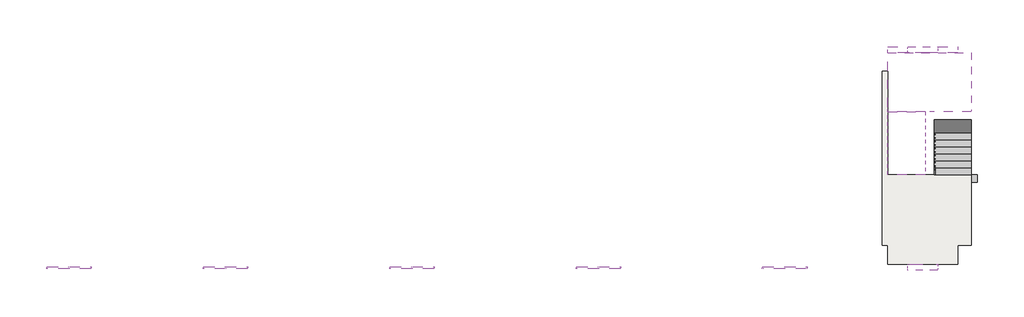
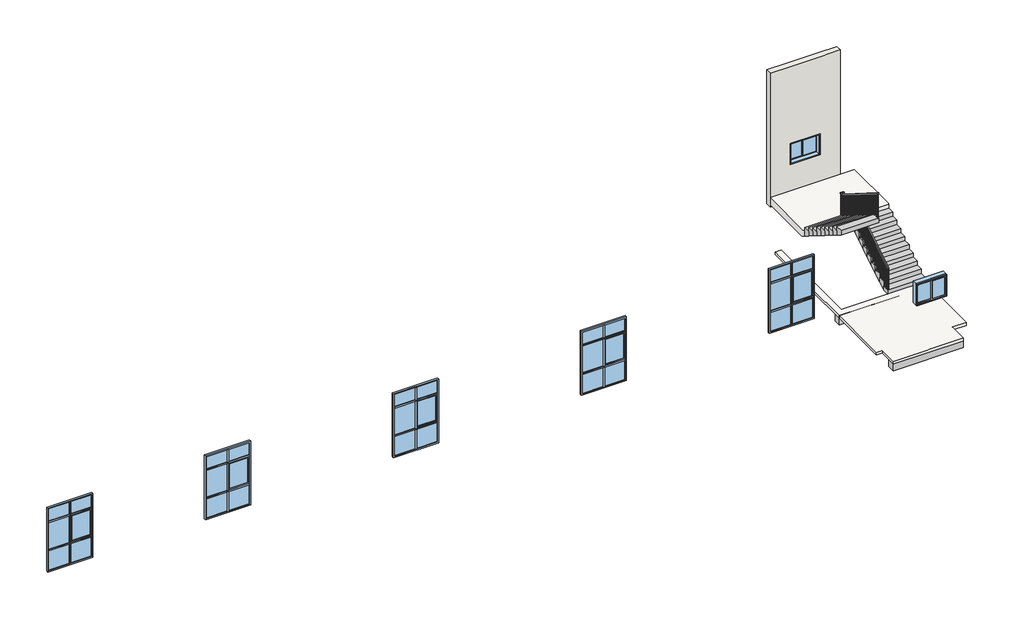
# One storey: 7 windows, 2 beams, 2 slabs, 2 stair flights, 1 railing, 1 wall.
"""IFC4 building model written with IfcOpenShell, lengths in millimetres."""

from ifc_helpers import new_model, si_unit, frame, origin, place, context, project, spatial, polyline, outline, extrude, faceted_brep, transform, mapped, element, save
from components import beam_300x400_5cb47341, c1209_ef09aeb5, c1827_4e4fbd46

model = new_model("IFC4")

# Units and contexts
model_context = context("Model", 3, world=origin())
ifc_project = project(units=[si_unit("LENGTHUNIT", "METRE", prefix="MILLI")], contexts=[model_context])

# Site, building, storey
site = spatial("IfcSite", under=ifc_project)
building = spatial("IfcBuilding", under=site)
storey = spatial("IfcBuildingStorey", under=building, Name="二层", Elevation=3500.0)

# Beams
placement = place(None, origin())
element("IfcBeam", 1, ObjectType="混凝土 - 矩形梁 : 300X400", at=placement, inside=storey, context=model_context, shape_type="SweptSolid", body=[
    extrude(outline(polyline([(26422.1385293, -289.8143546), (26422.1385293, 10.1856454), (29222.1385293, 10.1856454), (29222.1385293, -289.8143546), (26422.1385293, -289.8143546)])), frame((0.0, 0.0, 3100.0), z_axis=(0.0, 0.0, 1.0), x_axis=(1.0, 0.0, 0.0)), (0.0, 0.0, 1.0), 400.0),
])
beam_300x400_shape = beam_300x400_5cb47341(model_context)
element("IfcBeam", 2, ObjectType="混凝土 - 矩形梁 : 300X400", at=placement, inside=storey, context=model_context, shape_type="MappedRepresentation", body=[
    mapped(beam_300x400_shape, transform((28102.1385293, 3170.1856454, 3300.0), x_axis=(1.0, 0.0, 0.0), y_axis=(0.0, 1.0, 0.0), z_axis=(0.0, 0.0, 1.0))),
])

# Railing
element("IfcRailing", 3, ObjectType="900mm", at=placement, inside=storey, context=model_context, shape_type="SolidModel", body=[
    faceted_brep([(28282.5385293, 3320.3432269, 4575.0), (28282.5385293, 3320.3432269, 4516.0376179), (28332.5385293, 3320.3432269, 4516.0376179), (28332.5385293, 3320.3432269, 4575.0), (28282.5385293, 5765.7432269, 6103.375), (28282.5385293, 5815.7432269, 6075.6626179), (28332.5385293, 5815.7432269, 6075.6626179), (28332.5385293, 5765.7432269, 6103.375), (28282.5385293, 5765.7432269, 6150.0), (28282.5385293, 5815.7432269, 6100.0), (28332.5385293, 5815.7432269, 6100.0), (28332.5385293, 5765.7432269, 6150.0), (28282.5385293, 5840.7432269, 6150.0), (28282.5385293, 5840.7432269, 6100.0), (28332.5385293, 5890.7432269, 6100.0), (28332.5385293, 5890.7432269, 6150.0), (28207.5385293, 5840.7432269, 6150.0), (28207.5385293, 5840.7432269, 6100.0), (28207.5385293, 5890.7432269, 6100.0), (28207.5385293, 5890.7432269, 6150.0), (27996.7385293, 5840.7432269, 6150.0), (27946.7385293, 5840.7432269, 6100.0), (27946.7385293, 5890.7432269, 6100.0), (27996.7385293, 5890.7432269, 6150.0), (27996.7385293, 5840.7432269, 6371.625), (27946.7385293, 5840.7432269, 6321.625), (27946.7385293, 5890.7432269, 6321.625), (27996.7385293, 5890.7432269, 6371.625), (27921.7385293, 5840.7432269, 6371.625), (27921.7385293, 5840.7432269, 6321.625), (27871.7385293, 5890.7432269, 6321.625), (27871.7385293, 5890.7432269, 6371.625), (27921.7385293, 5765.7432269, 6371.625), (27921.7385293, 5751.4034156, 6321.625), (27871.7385293, 5751.4034156, 6321.625), (27871.7385293, 5765.7432269, 6371.625), (27921.7385293, 3320.3432269, 7900.0), (27871.7385293, 3320.3432269, 7900.0), (27871.7385293, 3320.3432269, 7841.0376179), (27921.7385293, 3320.3432269, 7841.0376179)], [[[0, 1, 2, 3]], [[1, 0, 4, 5]], [[2, 1, 5, 6]], [[3, 2, 6, 7]], [[0, 3, 7, 4]], [[5, 4, 8, 9]], [[6, 5, 9, 10]], [[7, 6, 10, 11]], [[4, 7, 11, 8]], [[9, 8, 12, 13]], [[10, 9, 13, 14]], [[11, 10, 14, 15]], [[8, 11, 15, 12]], [[13, 12, 16, 17]], [[14, 13, 17, 18]], [[15, 14, 18, 19]], [[12, 15, 19, 16]], [[17, 16, 20, 21]], [[18, 17, 21, 22]], [[19, 18, 22, 23]], [[16, 19, 23, 20]], [[21, 20, 24, 25]], [[22, 21, 25, 26]], [[23, 22, 26, 27]], [[20, 23, 27, 24]], [[25, 24, 28, 29]], [[26, 25, 29, 30]], [[27, 26, 30, 31]], [[24, 27, 31, 28]], [[29, 28, 32, 33]], [[30, 29, 33, 34]], [[31, 30, 34, 35]], [[28, 31, 35, 32]], [[36, 37, 38, 39]], [[33, 32, 36, 39]], [[34, 33, 39, 38]], [[35, 34, 38, 37]], [[32, 35, 37, 36]]]),
    extrude(outline(polyline([(3425.7432269, 6825.0), (3405.7432269, 6825.0), (3405.7432269, 7787.6626179), (3425.7432269, 7775.1626179), (3425.7432269, 6825.0)])), frame((27886.7385293, 0.0, 0.0), z_axis=(1.0, 0.0, 0.0), x_axis=(0.0, 1.0, 0.0)), (0.0, 0.0, 1.0), 20.0),
    extrude(outline(polyline([(3565.7432269, 6825.0), (3545.7432269, 6825.0), (3545.7432269, 7700.1626179), (3565.7432269, 7687.6626179), (3565.7432269, 6825.0)])), frame((27886.7385293, 0.0, 0.0), z_axis=(1.0, 0.0, 0.0), x_axis=(0.0, 1.0, 0.0)), (0.0, 0.0, 1.0), 20.0),
    extrude(outline(polyline([(3705.7432269, 6650.0), (3685.7432269, 6650.0), (3685.7432269, 7612.6626179), (3705.7432269, 7600.1626179), (3705.7432269, 6650.0)])), frame((27886.7385293, 0.0, 0.0), z_axis=(1.0, 0.0, 0.0), x_axis=(0.0, 1.0, 0.0)), (0.0, 0.0, 1.0), 20.0),
    extrude(outline(polyline([(3845.7432269, 6650.0), (3825.7432269, 6650.0), (3825.7432269, 7525.1626179), (3845.7432269, 7512.6626179), (3845.7432269, 6650.0)])), frame((27886.7385293, 0.0, 0.0), z_axis=(1.0, 0.0, 0.0), x_axis=(0.0, 1.0, 0.0)), (0.0, 0.0, 1.0), 20.0),
    extrude(outline(polyline([(3985.7432269, 6475.0), (3965.7432269, 6475.0), (3965.7432269, 7437.6626179), (3985.7432269, 7425.1626179), (3985.7432269, 6475.0)])), frame((27886.7385293, 0.0, 0.0), z_axis=(1.0, 0.0, 0.0), x_axis=(0.0, 1.0, 0.0)), (0.0, 0.0, 1.0), 20.0),
    extrude(outline(polyline([(4125.7432269, 6475.0), (4105.7432269, 6475.0), (4105.7432269, 7350.1626179), (4125.7432269, 7337.6626179), (4125.7432269, 6475.0)])), frame((27886.7385293, 0.0, 0.0), z_axis=(1.0, 0.0, 0.0), x_axis=(0.0, 1.0, 0.0)), (0.0, 0.0, 1.0), 20.0),
    extrude(outline(polyline([(4265.7432269, 6300.0), (4245.7432269, 6300.0), (4245.7432269, 7262.6626179), (4265.7432269, 7250.1626179), (4265.7432269, 6300.0)])), frame((27886.7385293, 0.0, 0.0), z_axis=(1.0, 0.0, 0.0), x_axis=(0.0, 1.0, 0.0)), (0.0, 0.0, 1.0), 20.0),
    extrude(outline(polyline([(4405.7432269, 6300.0), (4385.7432269, 6300.0), (4385.7432269, 7175.1626179), (4405.7432269, 7162.6626179), (4405.7432269, 6300.0)])), frame((27886.7385293, 0.0, 0.0), z_axis=(1.0, 0.0, 0.0), x_axis=(0.0, 1.0, 0.0)), (0.0, 0.0, 1.0), 20.0),
    extrude(outline(polyline([(4545.7432269, 6125.0), (4525.7432269, 6125.0), (4525.7432269, 7087.6626179), (4545.7432269, 7075.1626179), (4545.7432269, 6125.0)])), frame((27886.7385293, 0.0, 0.0), z_axis=(1.0, 0.0, 0.0), x_axis=(0.0, 1.0, 0.0)), (0.0, 0.0, 1.0), 20.0),
    extrude(outline(polyline([(4685.7432269, 6125.0), (4665.7432269, 6125.0), (4665.7432269, 7000.1626179), (4685.7432269, 6987.6626179), (4685.7432269, 6125.0)])), frame((27886.7385293, 0.0, 0.0), z_axis=(1.0, 0.0, 0.0), x_axis=(0.0, 1.0, 0.0)), (0.0, 0.0, 1.0), 20.0),
    extrude(outline(polyline([(4825.7432269, 5950.0), (4805.7432269, 5950.0), (4805.7432269, 6912.6626179), (4825.7432269, 6900.1626179), (4825.7432269, 5950.0)])), frame((27886.7385293, 0.0, 0.0), z_axis=(1.0, 0.0, 0.0), x_axis=(0.0, 1.0, 0.0)), (0.0, 0.0, 1.0), 20.0),
    extrude(outline(polyline([(4965.7432269, 5950.0), (4945.7432269, 5950.0), (4945.7432269, 6825.1626179), (4965.7432269, 6812.6626179), (4965.7432269, 5950.0)])), frame((27886.7385293, 0.0, 0.0), z_axis=(1.0, 0.0, 0.0), x_axis=(0.0, 1.0, 0.0)), (0.0, 0.0, 1.0), 20.0),
    extrude(outline(polyline([(5105.7432269, 5775.0), (5085.7432269, 5775.0), (5085.7432269, 6737.6626179), (5105.7432269, 6725.1626179), (5105.7432269, 5775.0)])), frame((27886.7385293, 0.0, 0.0), z_axis=(1.0, 0.0, 0.0), x_axis=(0.0, 1.0, 0.0)), (0.0, 0.0, 1.0), 20.0),
    extrude(outline(polyline([(5245.7432269, 5775.0), (5225.7432269, 5775.0), (5225.7432269, 6650.1626179), (5245.7432269, 6637.6626179), (5245.7432269, 5775.0)])), frame((27886.7385293, 0.0, 0.0), z_axis=(1.0, 0.0, 0.0), x_axis=(0.0, 1.0, 0.0)), (0.0, 0.0, 1.0), 20.0),
    extrude(outline(polyline([(5385.7432269, 5600.0), (5365.7432269, 5600.0), (5365.7432269, 6562.6626179), (5385.7432269, 6550.1626179), (5385.7432269, 5600.0)])), frame((27886.7385293, 0.0, 0.0), z_axis=(1.0, 0.0, 0.0), x_axis=(0.0, 1.0, 0.0)), (0.0, 0.0, 1.0), 20.0),
    extrude(outline(polyline([(5525.7432269, 5600.0), (5505.7432269, 5600.0), (5505.7432269, 6475.1626179), (5525.7432269, 6462.6626179), (5525.7432269, 5600.0)])), frame((27886.7385293, 0.0, 0.0), z_axis=(1.0, 0.0, 0.0), x_axis=(0.0, 1.0, 0.0)), (0.0, 0.0, 1.0), 20.0),
    extrude(outline(polyline([(5665.7432269, 5425.0), (5645.7432269, 5425.0), (5645.7432269, 6387.6626179), (5665.7432269, 6375.1626179), (5665.7432269, 5425.0)])), frame((27886.7385293, 0.0, 0.0), z_axis=(1.0, 0.0, 0.0), x_axis=(0.0, 1.0, 0.0)), (0.0, 0.0, 1.0), 20.0),
    extrude(outline(polyline([(27906.7385293, 5805.7432269), (27906.7385293, 5785.7432269), (27886.7385293, 5785.7432269), (27886.7385293, 5805.7432269), (27906.7385293, 5805.7432269)])), frame((0.0, 0.0, 5425.0), z_axis=(0.0, 0.0, 1.0), x_axis=(1.0, 0.0, 0.0)), (0.0, 0.0, 1.0), 896.625),
    extrude(outline(polyline([(27967.5385293, 5855.7432269), (27947.5385293, 5855.7432269), (27947.5385293, 5875.7432269), (27967.5385293, 5875.7432269), (27967.5385293, 5855.7432269)])), frame((0.0, 0.0, 5250.0), z_axis=(0.0, 0.0, 1.0), x_axis=(1.0, 0.0, 0.0)), (0.0, 0.0, 1.0), 850.0),
    extrude(outline(polyline([(28107.5385293, 5855.7432269), (28087.5385293, 5855.7432269), (28087.5385293, 5875.7432269), (28107.5385293, 5875.7432269), (28107.5385293, 5855.7432269)])), frame((0.0, 0.0, 5250.0), z_axis=(0.0, 0.0, 1.0), x_axis=(1.0, 0.0, 0.0)), (0.0, 0.0, 1.0), 850.0),
    extrude(outline(polyline([(28247.5385293, 5855.7432269), (28227.5385293, 5855.7432269), (28227.5385293, 5875.7432269), (28247.5385293, 5875.7432269), (28247.5385293, 5855.7432269)])), frame((0.0, 0.0, 5250.0), z_axis=(0.0, 0.0, 1.0), x_axis=(1.0, 0.0, 0.0)), (0.0, 0.0, 1.0), 850.0),
    extrude(outline(polyline([(5760.3432269, 6041.0376179), (5780.3432269, 6053.5376179), (5780.3432269, 5075.0), (5760.3432269, 5075.0), (5760.3432269, 6041.0376179)])), frame((28297.5385293, 0.0, 0.0), z_axis=(1.0, 0.0, 0.0), x_axis=(0.0, 1.0, 0.0)), (0.0, 0.0, 1.0), 20.0),
    extrude(outline(polyline([(5620.3432269, 5953.5376179), (5640.3432269, 5966.0376179), (5640.3432269, 5075.0), (5620.3432269, 5075.0), (5620.3432269, 5953.5376179)])), frame((28297.5385293, 0.0, 0.0), z_axis=(1.0, 0.0, 0.0), x_axis=(0.0, 1.0, 0.0)), (0.0, 0.0, 1.0), 20.0),
    extrude(outline(polyline([(5480.3432269, 5866.0376179), (5500.3432269, 5878.5376179), (5500.3432269, 4900.0), (5480.3432269, 4900.0), (5480.3432269, 5866.0376179)])), frame((28297.5385293, 0.0, 0.0), z_axis=(1.0, 0.0, 0.0), x_axis=(0.0, 1.0, 0.0)), (0.0, 0.0, 1.0), 20.0),
    extrude(outline(polyline([(5340.3432269, 5778.5376179), (5360.3432269, 5791.0376179), (5360.3432269, 4900.0), (5340.3432269, 4900.0), (5340.3432269, 5778.5376179)])), frame((28297.5385293, 0.0, 0.0), z_axis=(1.0, 0.0, 0.0), x_axis=(0.0, 1.0, 0.0)), (0.0, 0.0, 1.0), 20.0),
    extrude(outline(polyline([(5200.3432269, 5691.0376179), (5220.3432269, 5703.5376179), (5220.3432269, 4725.0), (5200.3432269, 4725.0), (5200.3432269, 5691.0376179)])), frame((28297.5385293, 0.0, 0.0), z_axis=(1.0, 0.0, 0.0), x_axis=(0.0, 1.0, 0.0)), (0.0, 0.0, 1.0), 20.0),
    extrude(outline(polyline([(5060.3432269, 5603.5376179), (5080.3432269, 5616.0376179), (5080.3432269, 4725.0), (5060.3432269, 4725.0), (5060.3432269, 5603.5376179)])), frame((28297.5385293, 0.0, 0.0), z_axis=(1.0, 0.0, 0.0), x_axis=(0.0, 1.0, 0.0)), (0.0, 0.0, 1.0), 20.0),
    extrude(outline(polyline([(4920.3432269, 5516.0376179), (4940.3432269, 5528.5376179), (4940.3432269, 4550.0), (4920.3432269, 4550.0), (4920.3432269, 5516.0376179)])), frame((28297.5385293, 0.0, 0.0), z_axis=(1.0, 0.0, 0.0), x_axis=(0.0, 1.0, 0.0)), (0.0, 0.0, 1.0), 20.0),
    extrude(outline(polyline([(4780.3432269, 5428.5376179), (4800.3432269, 5441.0376179), (4800.3432269, 4550.0), (4780.3432269, 4550.0), (4780.3432269, 5428.5376179)])), frame((28297.5385293, 0.0, 0.0), z_axis=(1.0, 0.0, 0.0), x_axis=(0.0, 1.0, 0.0)), (0.0, 0.0, 1.0), 20.0),
    extrude(outline(polyline([(4640.3432269, 5341.0376179), (4660.3432269, 5353.5376179), (4660.3432269, 4375.0), (4640.3432269, 4375.0), (4640.3432269, 5341.0376179)])), frame((28297.5385293, 0.0, 0.0), z_axis=(1.0, 0.0, 0.0), x_axis=(0.0, 1.0, 0.0)), (0.0, 0.0, 1.0), 20.0),
    extrude(outline(polyline([(4500.3432269, 5253.5376179), (4520.3432269, 5266.0376179), (4520.3432269, 4375.0), (4500.3432269, 4375.0), (4500.3432269, 5253.5376179)])), frame((28297.5385293, 0.0, 0.0), z_axis=(1.0, 0.0, 0.0), x_axis=(0.0, 1.0, 0.0)), (0.0, 0.0, 1.0), 20.0),
    extrude(outline(polyline([(4360.3432269, 5166.0376179), (4380.3432269, 5178.5376179), (4380.3432269, 4200.0), (4360.3432269, 4200.0), (4360.3432269, 5166.0376179)])), frame((28297.5385293, 0.0, 0.0), z_axis=(1.0, 0.0, 0.0), x_axis=(0.0, 1.0, 0.0)), (0.0, 0.0, 1.0), 20.0),
    extrude(outline(polyline([(4220.3432269, 5078.5376179), (4240.3432269, 5091.0376179), (4240.3432269, 4200.0), (4220.3432269, 4200.0), (4220.3432269, 5078.5376179)])), frame((28297.5385293, 0.0, 0.0), z_axis=(1.0, 0.0, 0.0), x_axis=(0.0, 1.0, 0.0)), (0.0, 0.0, 1.0), 20.0),
    extrude(outline(polyline([(4080.3432269, 4991.0376179), (4100.3432269, 5003.5376179), (4100.3432269, 4025.0), (4080.3432269, 4025.0), (4080.3432269, 4991.0376179)])), frame((28297.5385293, 0.0, 0.0), z_axis=(1.0, 0.0, 0.0), x_axis=(0.0, 1.0, 0.0)), (0.0, 0.0, 1.0), 20.0),
    extrude(outline(polyline([(3940.3432269, 4903.5376179), (3960.3432269, 4916.0376179), (3960.3432269, 4025.0), (3940.3432269, 4025.0), (3940.3432269, 4903.5376179)])), frame((28297.5385293, 0.0, 0.0), z_axis=(1.0, 0.0, 0.0), x_axis=(0.0, 1.0, 0.0)), (0.0, 0.0, 1.0), 20.0),
    extrude(outline(polyline([(3800.3432269, 4816.0376179), (3820.3432269, 4828.5376179), (3820.3432269, 3850.0), (3800.3432269, 3850.0), (3800.3432269, 4816.0376179)])), frame((28297.5385293, 0.0, 0.0), z_axis=(1.0, 0.0, 0.0), x_axis=(0.0, 1.0, 0.0)), (0.0, 0.0, 1.0), 20.0),
    extrude(outline(polyline([(3660.3432269, 4728.5376179), (3680.3432269, 4741.0376179), (3680.3432269, 3850.0), (3660.3432269, 3850.0), (3660.3432269, 4728.5376179)])), frame((28297.5385293, 0.0, 0.0), z_axis=(1.0, 0.0, 0.0), x_axis=(0.0, 1.0, 0.0)), (0.0, 0.0, 1.0), 20.0),
    extrude(outline(polyline([(3520.3432269, 4641.0376179), (3540.3432269, 4653.5376179), (3540.3432269, 3675.0), (3520.3432269, 3675.0), (3520.3432269, 4641.0376179)])), frame((28297.5385293, 0.0, 0.0), z_axis=(1.0, 0.0, 0.0), x_axis=(0.0, 1.0, 0.0)), (0.0, 0.0, 1.0), 20.0),
    extrude(outline(polyline([(3380.3432269, 4553.5376179), (3400.3432269, 4566.0376179), (3400.3432269, 3675.0), (3380.3432269, 3675.0), (3380.3432269, 4553.5376179)])), frame((28297.5385293, 0.0, 0.0), z_axis=(1.0, 0.0, 0.0), x_axis=(0.0, 1.0, 0.0)), (0.0, 0.0, 1.0), 20.0),
    extrude(outline(polyline([(27906.7385293, 5875.7432269), (27906.7385293, 5855.7432269), (27886.7385293, 5855.7432269), (27886.7385293, 5875.7432269), (27906.7385293, 5875.7432269)])), frame((0.0, 0.0, 5250.0), z_axis=(0.0, 0.0, 1.0), x_axis=(1.0, 0.0, 0.0)), (0.0, 0.0, 1.0), 1071.625),
    extrude(outline(polyline([(28297.5385293, 5855.7432269), (28297.5385293, 5875.7432269), (28317.5385293, 5875.7432269), (28317.5385293, 5855.7432269), (28297.5385293, 5855.7432269)])), frame((0.0, 0.0, 5250.0), z_axis=(0.0, 0.0, 1.0), x_axis=(1.0, 0.0, 0.0)), (0.0, 0.0, 1.0), 850.0),
    extrude(outline(polyline([(28297.5385293, 5830.3432269), (28297.5385293, 5850.3432269), (28317.5385293, 5850.3432269), (28317.5385293, 5830.3432269), (28297.5385293, 5830.3432269)])), frame((0.0, 0.0, 5250.0), z_axis=(0.0, 0.0, 1.0), x_axis=(1.0, 0.0, 0.0)), (0.0, 0.0, 1.0), 850.0),
    extrude(outline(polyline([(3340.3432269, 6825.0), (3320.3432269, 6825.0), (3320.3432269, 7841.0376179), (3340.3432269, 7828.5376179), (3340.3432269, 6825.0)])), frame((27886.7385293, 0.0, 0.0), z_axis=(1.0, 0.0, 0.0), x_axis=(0.0, 1.0, 0.0)), (0.0, 0.0, 1.0), 20.0),
    extrude(outline(polyline([(3320.3432269, 4516.0376179), (3340.3432269, 4528.5376179), (3340.3432269, 3675.0), (3320.3432269, 3675.0), (3320.3432269, 4516.0376179)])), frame((28297.5385293, 0.0, 0.0), z_axis=(1.0, 0.0, 0.0), x_axis=(0.0, 1.0, 0.0)), (0.0, 0.0, 1.0), 20.0),
])

# Slabs
element("IfcSlab", 4, ObjectType="常规 - 120mm", at=placement, inside=storey, context=model_context, shape_type="SweptSolid", body=[
    extrude(outline(polyline([(29782.1385293, 470.1856454), (29222.1385293, 470.1856454), (29222.1385293, -289.8143546), (26422.1385293, -289.8143546), (26422.1385293, 470.1856454), (26182.1385293, 470.1856454), (26182.1385293, 7470.1856454), (26422.1385293, 7470.1856454), (26422.1385293, 3320.1856454), (29782.1385293, 3320.1856454), (29782.1385293, 470.1856454)])), frame((0.0, 0.0, 3380.0), z_axis=(0.0, 0.0, 1.0), x_axis=(1.0, 0.0, 0.0)), (0.0, 0.0, 1.0), 120.0),
])
element("IfcSlab", 5, ObjectType="300mm 厚度", at=placement, inside=storey, context=model_context, shape_type="Brep", body=[
    faceted_brep([(28282.1385293, 5840.3432269, 5250.0), (29782.1385293, 5840.3432269, 5250.0), (29782.1385293, 5923.3626608, 5250.0), (29782.1385293, 8229.1856454, 5250.0), (26422.1385293, 8229.1856454, 5250.0), (26422.1385293, 6037.3237929, 5250.0), (26422.1385293, 5840.3432269, 5250.0), (27922.1385293, 5840.3432269, 5250.0), (28282.1385293, 5840.3432269, 4950.0), (28282.1385293, 5840.3432269, 4898.1128538), (29782.1385293, 5840.3432269, 4898.1128538), (29782.1385293, 5840.3432269, 5075.0), (29782.1385293, 5923.3626608, 4950.0), (29782.1385293, 8229.1856454, 4950.0), (26422.1385293, 8229.1856454, 4950.0), (26422.1385293, 6037.3237929, 4950.0), (26422.1385293, 5840.3432269, 5073.1128538), (27922.1385293, 5840.3432269, 5073.1128538), (27922.1385293, 5840.3432269, 4950.0), (27922.1385293, 6037.3237929, 4950.0), (28282.1385293, 5923.3626608, 4950.0)], [[[0, 1, 2, 3, 4, 5, 6, 7]], [[1, 0, 8, 9, 10, 11]], [[1, 11, 10, 12, 13, 3, 2]], [[4, 3, 13, 14]], [[4, 14, 15, 16, 6, 5]], [[7, 6, 16, 17]], [[0, 7, 17, 18, 8]], [[18, 19, 15, 14, 13, 12, 20, 8]], [[19, 18, 17]], [[20, 12, 10, 9]], [[8, 20, 9]], [[15, 19, 17, 16]]]),
])

# Stair flights
element("IfcStairFlight", 6, ObjectType="150mm 结构深度", at=placement, inside=storey, context=model_context, shape_type="Brep", body=[
    faceted_brep([(28282.1385293, 3600.3432269, 3675.0), (28282.1385293, 3320.3432269, 3675.0), (29782.1385293, 3320.3432269, 3675.0), (29782.1385293, 3600.3432269, 3675.0), (28282.1385293, 3600.3432269, 3500.0), (28282.1385293, 3320.3432269, 3500.0), (29782.1385293, 3320.3432269, 3500.0), (29782.1385293, 3600.3432269, 3500.0), (28282.1385293, 3880.3432269, 3850.0), (28282.1385293, 3600.3432269, 3850.0), (29782.1385293, 3600.3432269, 3850.0), (29782.1385293, 3880.3432269, 3850.0), (28282.1385293, 3880.3432269, 3673.1128538), (28282.1385293, 3603.3626608, 3500.0), (29782.1385293, 3603.3626608, 3500.0), (29782.1385293, 3880.3432269, 3673.1128538), (28282.1385293, 4160.3432269, 4025.0), (28282.1385293, 3880.3432269, 4025.0), (29782.1385293, 3880.3432269, 4025.0), (29782.1385293, 4160.3432269, 4025.0), (28282.1385293, 4160.3432269, 3848.1128538), (29782.1385293, 4160.3432269, 3848.1128538), (28282.1385293, 4440.3432269, 4200.0), (28282.1385293, 4160.3432269, 4200.0), (29782.1385293, 4160.3432269, 4200.0), (29782.1385293, 4440.3432269, 4200.0), (28282.1385293, 4440.3432269, 4023.1128538), (29782.1385293, 4440.3432269, 4023.1128538), (28282.1385293, 4720.3432269, 4375.0), (28282.1385293, 4440.3432269, 4375.0), (29782.1385293, 4440.3432269, 4375.0), (29782.1385293, 4720.3432269, 4375.0), (28282.1385293, 4720.3432269, 4198.1128538), (29782.1385293, 4720.3432269, 4198.1128538), (28282.1385293, 5000.3432269, 4550.0), (28282.1385293, 4720.3432269, 4550.0), (29782.1385293, 4720.3432269, 4550.0), (29782.1385293, 5000.3432269, 4550.0), (28282.1385293, 5000.3432269, 4373.1128538), (29782.1385293, 5000.3432269, 4373.1128538), (28282.1385293, 5280.3432269, 4725.0), (28282.1385293, 5000.3432269, 4725.0), (29782.1385293, 5000.3432269, 4725.0), (29782.1385293, 5280.3432269, 4725.0), (28282.1385293, 5280.3432269, 4548.1128538), (29782.1385293, 5280.3432269, 4548.1128538), (28282.1385293, 5560.3432269, 4900.0), (28282.1385293, 5280.3432269, 4900.0), (29782.1385293, 5280.3432269, 4900.0), (29782.1385293, 5560.3432269, 4900.0), (28282.1385293, 5560.3432269, 4723.1128538), (29782.1385293, 5560.3432269, 4723.1128538), (28282.1385293, 5840.3432269, 5075.0), (28282.1385293, 5560.3432269, 5075.0), (29782.1385293, 5560.3432269, 5075.0), (29782.1385293, 5840.3432269, 5075.0), (28282.1385293, 5840.3432269, 4950.0), (28282.1385293, 5840.3432269, 4898.1128538), (29782.1385293, 5840.3432269, 4898.1128538)], [[[0, 1, 2, 3]], [[1, 0, 4, 5]], [[2, 1, 5, 6]], [[3, 2, 6, 7]], [[8, 9, 10, 11]], [[4, 0, 9, 8, 12, 13]], [[0, 3, 10, 9]], [[3, 7, 14, 15, 11, 10]], [[16, 17, 18, 19]], [[17, 16, 20, 12, 8]], [[8, 11, 18, 17]], [[19, 18, 11, 15, 21]], [[22, 23, 24, 25]], [[23, 22, 26, 20, 16]], [[16, 19, 24, 23]], [[25, 24, 19, 21, 27]], [[28, 29, 30, 31]], [[29, 28, 32, 26, 22]], [[22, 25, 30, 29]], [[31, 30, 25, 27, 33]], [[34, 35, 36, 37]], [[35, 34, 38, 32, 28]], [[28, 31, 36, 35]], [[37, 36, 31, 33, 39]], [[40, 41, 42, 43]], [[41, 40, 44, 38, 34]], [[34, 37, 42, 41]], [[43, 42, 37, 39, 45]], [[46, 47, 48, 49]], [[47, 46, 50, 44, 40]], [[40, 43, 48, 47]], [[49, 48, 43, 45, 51]], [[52, 53, 54, 55]], [[53, 52, 56, 57, 50, 46]], [[46, 49, 54, 53]], [[55, 54, 49, 51, 58]], [[52, 55, 58, 57, 56]], [[5, 4, 13, 14, 7, 6]], [[14, 13, 12, 20, 26, 32, 38, 44, 50, 57, 58, 51, 45, 39, 33, 27, 21, 15]]]),
])
element("IfcStairFlight", 7, ObjectType="150mm 结构深度", at=placement, inside=storey, context=model_context, shape_type="Brep", body=[
    faceted_brep([(27922.1385293, 5560.3432269, 5425.0), (27922.1385293, 5840.3432269, 5425.0), (26422.1385293, 5840.3432269, 5425.0), (26422.1385293, 5560.3432269, 5425.0), (27922.1385293, 5560.3432269, 5248.1128538), (27922.1385293, 5840.3432269, 5073.1128538), (26422.1385293, 5840.3432269, 5073.1128538), (26422.1385293, 5840.3432269, 5250.0), (26422.1385293, 5560.3432269, 5248.1128538), (27922.1385293, 5280.3432269, 5600.0), (27922.1385293, 5560.3432269, 5600.0), (26422.1385293, 5560.3432269, 5600.0), (26422.1385293, 5280.3432269, 5600.0), (27922.1385293, 5280.3432269, 5423.1128538), (26422.1385293, 5280.3432269, 5423.1128538), (27922.1385293, 5000.3432269, 5775.0), (27922.1385293, 5280.3432269, 5775.0), (26422.1385293, 5280.3432269, 5775.0), (26422.1385293, 5000.3432269, 5775.0), (27922.1385293, 5000.3432269, 5598.1128538), (26422.1385293, 5000.3432269, 5598.1128538), (27922.1385293, 4720.3432269, 5950.0), (27922.1385293, 5000.3432269, 5950.0), (26422.1385293, 5000.3432269, 5950.0), (26422.1385293, 4720.3432269, 5950.0), (27922.1385293, 4720.3432269, 5773.1128538), (26422.1385293, 4720.3432269, 5773.1128538), (27922.1385293, 4440.3432269, 6125.0), (27922.1385293, 4720.3432269, 6125.0), (26422.1385293, 4720.3432269, 6125.0), (26422.1385293, 4440.3432269, 6125.0), (27922.1385293, 4440.3432269, 5948.1128538), (26422.1385293, 4440.3432269, 5948.1128538), (27922.1385293, 4160.3432269, 6300.0), (27922.1385293, 4440.3432269, 6300.0), (26422.1385293, 4440.3432269, 6300.0), (26422.1385293, 4160.3432269, 6300.0), (27922.1385293, 4160.3432269, 6123.1128538), (26422.1385293, 4160.3432269, 6123.1128538), (27922.1385293, 3880.3432269, 6475.0), (27922.1385293, 4160.3432269, 6475.0), (26422.1385293, 4160.3432269, 6475.0), (26422.1385293, 3880.3432269, 6475.0), (27922.1385293, 3880.3432269, 6298.1128538), (26422.1385293, 3880.3432269, 6298.1128538), (27922.1385293, 3600.3432269, 6650.0), (27922.1385293, 3880.3432269, 6650.0), (26422.1385293, 3880.3432269, 6650.0), (26422.1385293, 3600.3432269, 6650.0), (27922.1385293, 3600.3432269, 6473.1128538), (26422.1385293, 3600.3432269, 6473.1128538), (27922.1385293, 3320.3432269, 6825.0), (27922.1385293, 3600.3432269, 6825.0), (26422.1385293, 3600.3432269, 6825.0), (26422.1385293, 3320.3432269, 6825.0), (27922.1385293, 3320.3432269, 6648.1128538), (26422.1385293, 3320.3432269, 6648.1128538)], [[[0, 1, 2, 3]], [[1, 0, 4, 5]], [[2, 1, 5, 6, 7]], [[3, 2, 7, 6, 8]], [[9, 10, 11, 12]], [[10, 9, 13, 4, 0]], [[11, 10, 0, 3]], [[12, 11, 3, 8, 14]], [[15, 16, 17, 18]], [[16, 15, 19, 13, 9]], [[17, 16, 9, 12]], [[18, 17, 12, 14, 20]], [[21, 22, 23, 24]], [[22, 21, 25, 19, 15]], [[23, 22, 15, 18]], [[24, 23, 18, 20, 26]], [[27, 28, 29, 30]], [[28, 27, 31, 25, 21]], [[29, 28, 21, 24]], [[30, 29, 24, 26, 32]], [[33, 34, 35, 36]], [[34, 33, 37, 31, 27]], [[35, 34, 27, 30]], [[36, 35, 30, 32, 38]], [[39, 40, 41, 42]], [[40, 39, 43, 37, 33]], [[41, 40, 33, 36]], [[42, 41, 36, 38, 44]], [[45, 46, 47, 48]], [[46, 45, 49, 43, 39]], [[47, 46, 39, 42]], [[48, 47, 42, 44, 50]], [[51, 52, 53, 54]], [[52, 51, 55, 49, 45]], [[53, 52, 45, 48]], [[54, 53, 48, 50, 56]], [[51, 54, 56, 55]], [[5, 4, 13, 19, 25, 31, 37, 43, 49, 55, 56, 50, 44, 38, 32, 26, 20, 14, 8, 6]]]),
])

# Wall
element("IfcWall", 8, ObjectType="240mm厚墙", at=placement, inside=storey, context=model_context, shape_type="Brep", body=[
    faceted_brep([(26422.1385293, 8230.1856454, 4850.0), (29222.1385293, 8230.1856454, 4850.0), (29222.1385293, 8230.1856454, 10500.0), (28422.1385293, 8230.1856454, 10500.0), (27222.1385293, 8230.1856454, 10500.0), (26422.1385293, 8230.1856454, 10500.0), (28422.1385293, 8230.1856454, 7250.0), (28422.1385293, 8230.1856454, 6350.0), (27222.1385293, 8230.1856454, 6350.0), (27222.1385293, 8230.1856454, 7250.0), (29222.1385293, 8470.1856454, 4850.0), (26422.1385293, 8470.1856454, 4850.0), (26422.1385293, 8470.1856454, 10500.0), (27222.1385293, 8470.1856454, 10500.0), (28422.1385293, 8470.1856454, 10500.0), (29222.1385293, 8470.1856454, 10500.0), (28422.1385293, 8470.1856454, 6350.0), (28422.1385293, 8470.1856454, 7250.0), (27222.1385293, 8470.1856454, 7250.0), (27222.1385293, 8470.1856454, 6350.0)], [[[0, 1, 2, 3, 4, 5], [6, 7, 8, 9]], [[10, 11, 12, 13, 14, 15], [16, 17, 18, 19]], [[1, 0, 11, 10]], [[2, 1, 10, 15]], [[5, 4, 3, 2, 15, 14, 13, 12]], [[0, 5, 12, 11]], [[6, 17, 16, 7]], [[8, 19, 18, 9]], [[17, 6, 9, 18]], [[19, 8, 7, 16]]]),
])

# Windows
c1209_shape = c1209_ef09aeb5(model_context)
element("IfcWindow", 9, ObjectType="推拉窗6 : C1209", at=placement, inside=storey, context=model_context, shape_type="MappedRepresentation", body=[
    mapped(c1209_shape, transform((27831.6635293, -476.6877921, 3500.0), x_axis=(-1.0, 0.0, 0.0), y_axis=(0.0, -1.0, 0.0), z_axis=(0.0, 0.0, 1.0))),
])
element("IfcWindow", 10, ObjectType="推拉窗6 : C1209", at=placement, inside=storey, context=model_context, shape_type="MappedRepresentation", body=[
    mapped(c1209_shape, transform((27812.6135293, 8417.0590829, 4150.0), x_axis=(1.0, 0.0, 0.0), y_axis=(0.0, 1.0, 0.0), z_axis=(0.0, 0.0, 1.0))),
])
c1827_shape = c1827_4e4fbd46(model_context)
element("IfcWindow", 11, ObjectType="组合窗 - 三层双列(平开+固定) : C1827", at=placement, inside=storey, context=model_context, shape_type="MappedRepresentation", body=[
    mapped(c1827_shape, transform((-6527.8614707, -409.8143546, 6550.0), x_axis=(1.0, 0.0, 0.0), y_axis=(0.0, 1.0, 0.0), z_axis=(0.0, 0.0, 1.0))),
])
element("IfcWindow", 12, ObjectType="组合窗 - 三层双列(平开+固定) : C1827", at=placement, inside=storey, context=model_context, shape_type="MappedRepresentation", body=[
    mapped(c1827_shape, transform((-227.8614707, -409.8143546, 6550.0), x_axis=(1.0, 0.0, 0.0), y_axis=(0.0, 1.0, 0.0), z_axis=(0.0, 0.0, 1.0))),
])
element("IfcWindow", 13, ObjectType="组合窗 - 三层双列(平开+固定) : C1827", at=placement, inside=storey, context=model_context, shape_type="MappedRepresentation", body=[
    mapped(c1827_shape, transform((7272.1385293, -409.8143546, 6550.0), x_axis=(1.0, 0.0, 0.0), y_axis=(0.0, 1.0, 0.0), z_axis=(0.0, 0.0, 1.0))),
])
element("IfcWindow", 14, ObjectType="组合窗 - 三层双列(平开+固定) : C1827", at=placement, inside=storey, context=model_context, shape_type="MappedRepresentation", body=[
    mapped(c1827_shape, transform((14772.1385293, -409.8143546, 6550.0), x_axis=(1.0, 0.0, 0.0), y_axis=(0.0, 1.0, 0.0), z_axis=(0.0, 0.0, 1.0))),
])
element("IfcWindow", 15, ObjectType="组合窗 - 三层双列(平开+固定) : C1827", at=placement, inside=storey, context=model_context, shape_type="MappedRepresentation", body=[
    mapped(c1827_shape, transform((22272.1385293, -409.8143546, 6550.0), x_axis=(1.0, 0.0, 0.0), y_axis=(0.0, 1.0, 0.0), z_axis=(0.0, 0.0, 1.0))),
])

save(model, "model.ifc")
